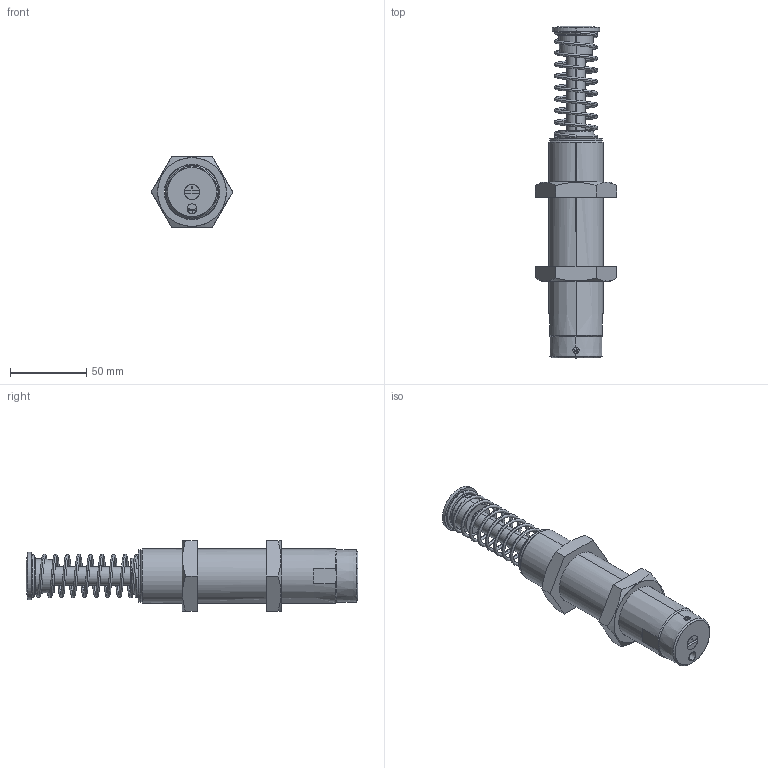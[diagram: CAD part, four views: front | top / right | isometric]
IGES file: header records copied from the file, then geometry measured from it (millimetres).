
Start section: SolidWorks IGES file using analytic representation for surfaces
Bounding box: 53.12 x 217 x 46 mm (x, y, z)
Surface area: 37891.7 mm2 (no closed solid volume)
Topology: 0 solids, 0 shells, 107 faces, 1916 edges, 1914 vertices
Faces by surface type: bspline 58, revolution 49
